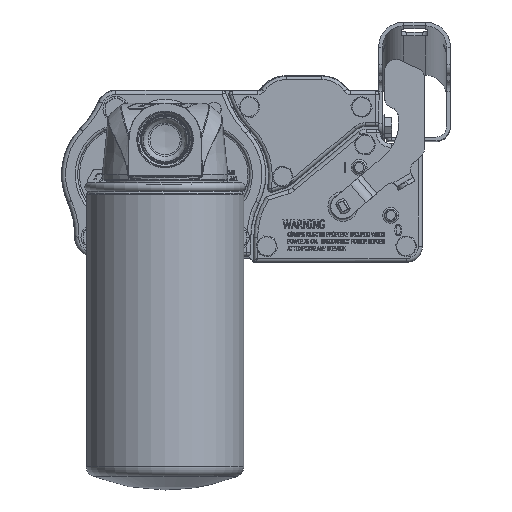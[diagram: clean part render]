
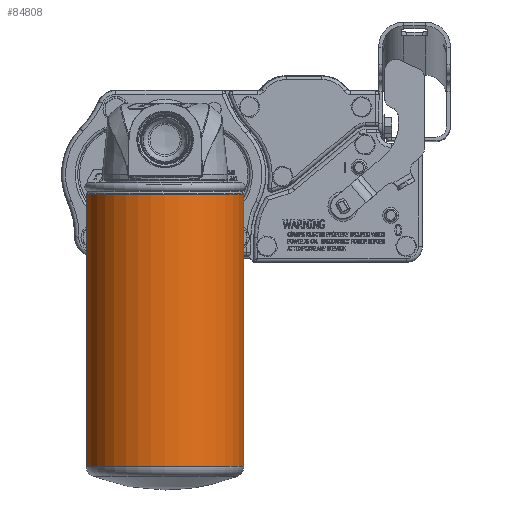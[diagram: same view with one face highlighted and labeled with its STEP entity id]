
A CAD part, top view. The second image highlights one B-rep face of the part: STEP entity #84808.
In plain terms, the highlighted cylindrical face has radius 46.863 mm (diameter 93.726 mm), a full revolution.
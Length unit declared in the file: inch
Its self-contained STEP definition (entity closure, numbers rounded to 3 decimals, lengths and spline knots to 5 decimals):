
#9414=FACE_OUTER_BOUND('',#14312,.T.);
#14312=EDGE_LOOP('',(#74980,#74981,#74982,#74983,#74984,#74985));
#16594=CIRCLE('',#91018,1.845);
#16595=CIRCLE('',#91019,1.845);
#16598=CIRCLE('',#91023,1.845);
#16599=CIRCLE('',#91024,1.845);
#25717=LINE('',#246165,#31655);
#31655=VECTOR('',#108707,1.845);
#39233=VERTEX_POINT('',#246154);
#39234=VERTEX_POINT('',#246155);
#39236=VERTEX_POINT('',#246162);
#39237=VERTEX_POINT('',#246163);
#51149=EDGE_CURVE('',#39233,#39234,#16594,.T.);
#51150=EDGE_CURVE('',#39234,#39233,#16595,.T.);
#51153=EDGE_CURVE('',#39236,#39237,#16598,.T.);
#51154=EDGE_CURVE('',#39236,#39234,#25717,.T.);
#51155=EDGE_CURVE('',#39237,#39236,#16599,.T.);
#74980=ORIENTED_EDGE('',*,*,#51153,.F.);
#74981=ORIENTED_EDGE('',*,*,#51154,.T.);
#74982=ORIENTED_EDGE('',*,*,#51149,.F.);
#74983=ORIENTED_EDGE('',*,*,#51150,.F.);
#74984=ORIENTED_EDGE('',*,*,#51154,.F.);
#74985=ORIENTED_EDGE('',*,*,#51155,.F.);
#75678=CYLINDRICAL_SURFACE('',#91022,1.845);
#84808=ADVANCED_FACE('',(#9414),#75678,.T.);
#91018=AXIS2_PLACEMENT_3D('',#246156,#108695,#108696);
#91019=AXIS2_PLACEMENT_3D('',#246157,#108697,#108698);
#91022=AXIS2_PLACEMENT_3D('',#246161,#108703,#108704);
#91023=AXIS2_PLACEMENT_3D('',#246164,#108705,#108706);
#91024=AXIS2_PLACEMENT_3D('',#246166,#108708,#108709);
#108695=DIRECTION('center_axis',(0.,0.,1.));
#108696=DIRECTION('ref_axis',(0.,-1.,0.));
#108697=DIRECTION('center_axis',(0.,0.,1.));
#108698=DIRECTION('ref_axis',(0.,-1.,0.));
#108703=DIRECTION('center_axis',(0.,0.,-1.));
#108704=DIRECTION('ref_axis',(0.,1.,0.));
#108705=DIRECTION('center_axis',(0.,0.,-1.));
#108706=DIRECTION('ref_axis',(0.,-1.,0.));
#108707=DIRECTION('',(0.,0.,1.));
#108708=DIRECTION('center_axis',(0.,0.,-1.));
#108709=DIRECTION('ref_axis',(0.,-1.,0.));
#246154=CARTESIAN_POINT('',(1.845,0.,6.9262));
#246155=CARTESIAN_POINT('',(0.,-1.845,6.9262));
#246156=CARTESIAN_POINT('Origin',(0.,0.,6.9262));
#246157=CARTESIAN_POINT('Origin',(0.,0.,6.9262));
#246161=CARTESIAN_POINT('Origin',(0.,0.,3.66197));
#246162=CARTESIAN_POINT('',(0.,-1.845,0.55111));
#246163=CARTESIAN_POINT('',(1.845,0.,0.55111));
#246164=CARTESIAN_POINT('Origin',(0.,0.,0.55111));
#246165=CARTESIAN_POINT('',(0.,-1.845,3.66197));
#246166=CARTESIAN_POINT('Origin',(0.,0.,0.55111));
